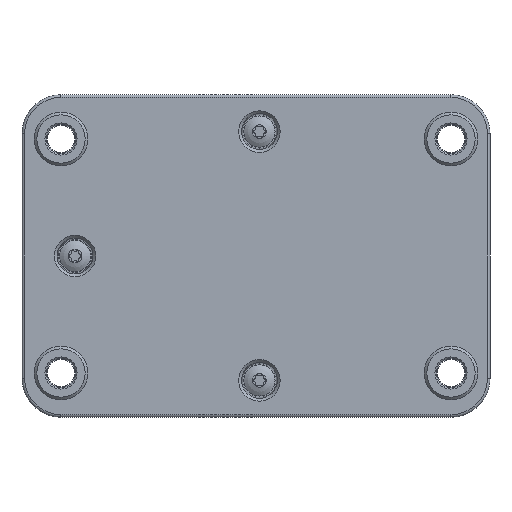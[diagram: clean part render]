
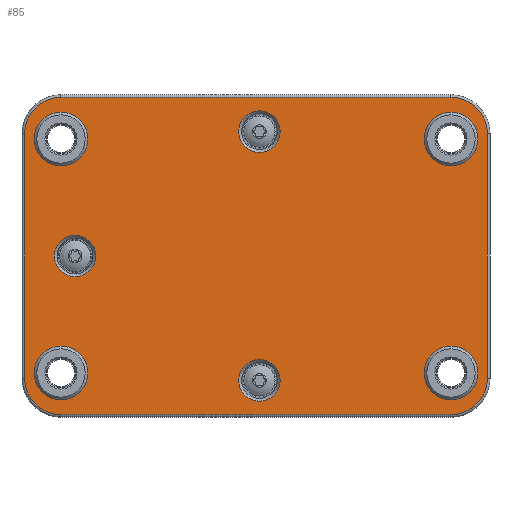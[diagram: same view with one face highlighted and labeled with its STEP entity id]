
A CAD part, front view. The second image highlights one B-rep face of the part: STEP entity #85.
In plain terms, the highlighted planar face has unit normal (0, -1, 0).
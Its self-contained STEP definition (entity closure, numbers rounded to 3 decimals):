
#85 = ADVANCED_FACE( '', ( #316, #317, #318, #319, #320, #321, #322, #323 ), #324, .F. );
#316 = FACE_OUTER_BOUND( '', #833, .T. );
#317 = FACE_BOUND( '', #834, .T. );
#318 = FACE_BOUND( '', #835, .T. );
#319 = FACE_BOUND( '', #836, .T. );
#320 = FACE_BOUND( '', #837, .T. );
#321 = FACE_BOUND( '', #838, .T. );
#322 = FACE_BOUND( '', #839, .T. );
#323 = FACE_BOUND( '', #840, .T. );
#324 = PLANE( '', #841 );
#833 = EDGE_LOOP( '', ( #1737, #1738, #1739, #1740, #1741, #1742, #1743, #1744 ) );
#834 = EDGE_LOOP( '', ( #1745 ) );
#835 = EDGE_LOOP( '', ( #1746 ) );
#836 = EDGE_LOOP( '', ( #1747 ) );
#837 = EDGE_LOOP( '', ( #1748 ) );
#838 = EDGE_LOOP( '', ( #1749 ) );
#839 = EDGE_LOOP( '', ( #1750 ) );
#840 = EDGE_LOOP( '', ( #1751 ) );
#841 = AXIS2_PLACEMENT_3D( '', #1752, #1753, #1754 );
#1737 = ORIENTED_EDGE( '', *, *, #3265, .F. );
#1738 = ORIENTED_EDGE( '', *, *, #3266, .T. );
#1739 = ORIENTED_EDGE( '', *, *, #3267, .F. );
#1740 = ORIENTED_EDGE( '', *, *, #3268, .T. );
#1741 = ORIENTED_EDGE( '', *, *, #3269, .T. );
#1742 = ORIENTED_EDGE( '', *, *, #3270, .F. );
#1743 = ORIENTED_EDGE( '', *, *, #3271, .T. );
#1744 = ORIENTED_EDGE( '', *, *, #3272, .F. );
#1745 = ORIENTED_EDGE( '', *, *, #3273, .F. );
#1746 = ORIENTED_EDGE( '', *, *, #3274, .F. );
#1747 = ORIENTED_EDGE( '', *, *, #3275, .F. );
#1748 = ORIENTED_EDGE( '', *, *, #3276, .F. );
#1749 = ORIENTED_EDGE( '', *, *, #3277, .F. );
#1750 = ORIENTED_EDGE( '', *, *, #3278, .F. );
#1751 = ORIENTED_EDGE( '', *, *, #3279, .F. );
#1752 = CARTESIAN_POINT( '', ( -38., 0., -24. ) );
#1753 = DIRECTION( '', ( 0., 1., 0. ) );
#1754 = DIRECTION( '', ( 0., 0., 1. ) );
#3265 = EDGE_CURVE( '', #3769, #3770, #3771, .T. );
#3266 = EDGE_CURVE( '', #3769, #3772, #3773, .T. );
#3267 = EDGE_CURVE( '', #3774, #3772, #3775, .T. );
#3268 = EDGE_CURVE( '', #3774, #3776, #3777, .T. );
#3269 = EDGE_CURVE( '', #3776, #3778, #3779, .T. );
#3270 = EDGE_CURVE( '', #3780, #3778, #3781, .T. );
#3271 = EDGE_CURVE( '', #3780, #3782, #3783, .T. );
#3272 = EDGE_CURVE( '', #3770, #3782, #3784, .T. );
#3273 = EDGE_CURVE( '', #3785, #3785, #3786, .F. );
#3274 = EDGE_CURVE( '', #3787, #3787, #3788, .F. );
#3275 = EDGE_CURVE( '', #3789, #3789, #3790, .F. );
#3276 = EDGE_CURVE( '', #3791, #3791, #3792, .T. );
#3277 = EDGE_CURVE( '', #3793, #3793, #3794, .T. );
#3278 = EDGE_CURVE( '', #3795, #3795, #3796, .T. );
#3279 = EDGE_CURVE( '', #3797, #3797, #3798, .T. );
#3769 = VERTEX_POINT( '', #4788 );
#3770 = VERTEX_POINT( '', #4789 );
#3771 = CIRCLE( '', #4790, 7. );
#3772 = VERTEX_POINT( '', #4791 );
#3773 = LINE( '', #4792, #4793 );
#3774 = VERTEX_POINT( '', #4794 );
#3775 = CIRCLE( '', #4795, 7. );
#3776 = VERTEX_POINT( '', #4796 );
#3777 = LINE( '', #4797, #4798 );
#3778 = VERTEX_POINT( '', #4799 );
#3779 = CIRCLE( '', #4800, 7. );
#3780 = VERTEX_POINT( '', #4801 );
#3781 = LINE( '', #4802, #4803 );
#3782 = VERTEX_POINT( '', #4804 );
#3783 = CIRCLE( '', #4805, 7. );
#3784 = LINE( '', #4806, #4807 );
#3785 = VERTEX_POINT( '', #4808 );
#3786 = CIRCLE( '', #4809, 3.986 );
#3787 = VERTEX_POINT( '', #4810 );
#3788 = CIRCLE( '', #4811, 3.986 );
#3789 = VERTEX_POINT( '', #4812 );
#3790 = CIRCLE( '', #4813, 3.986 );
#3791 = VERTEX_POINT( '', #4814 );
#3792 = CIRCLE( '', #4815, 5.15 );
#3793 = VERTEX_POINT( '', #4816 );
#3794 = CIRCLE( '', #4817, 5.15 );
#3795 = VERTEX_POINT( '', #4818 );
#3796 = CIRCLE( '', #4819, 5.15 );
#3797 = VERTEX_POINT( '', #4820 );
#3798 = CIRCLE( '', #4821, 5.15 );
#4788 = CARTESIAN_POINT( '', ( 37.5, 0., 30.5 ) );
#4789 = CARTESIAN_POINT( '', ( 44.5, 0., 23.5 ) );
#4790 = AXIS2_PLACEMENT_3D( '', #6134, #6135, #6136 );
#4791 = CARTESIAN_POINT( '', ( -37.5, 0., 30.5 ) );
#4792 = CARTESIAN_POINT( '', ( 37.5, 0., 30.5 ) );
#4793 = VECTOR( '', #6137, 1000. );
#4794 = CARTESIAN_POINT( '', ( -44.5, 0., 23.5 ) );
#4795 = AXIS2_PLACEMENT_3D( '', #6138, #6139, #6140 );
#4796 = CARTESIAN_POINT( '', ( -44.5, 0., -23.5 ) );
#4797 = CARTESIAN_POINT( '', ( -44.5, 0., 37.5 ) );
#4798 = VECTOR( '', #6141, 1000. );
#4799 = CARTESIAN_POINT( '', ( -37.5, 0., -30.5 ) );
#4800 = AXIS2_PLACEMENT_3D( '', #6142, #6143, #6144 );
#4801 = CARTESIAN_POINT( '', ( 37.5, 0., -30.5 ) );
#4802 = CARTESIAN_POINT( '', ( 37.5, 0., -30.5 ) );
#4803 = VECTOR( '', #6145, 1000. );
#4804 = CARTESIAN_POINT( '', ( 44.5, 0., -23.5 ) );
#4805 = AXIS2_PLACEMENT_3D( '', #6146, #6147, #6148 );
#4806 = CARTESIAN_POINT( '', ( 44.5, 0., 37.5 ) );
#4807 = VECTOR( '', #6149, 1000. );
#4808 = CARTESIAN_POINT( '', ( 0.665, 0., 27.911 ) );
#4809 = AXIS2_PLACEMENT_3D( '', #6150, #6151, #6152 );
#4810 = CARTESIAN_POINT( '', ( 0.665, 0., -19.939 ) );
#4811 = AXIS2_PLACEMENT_3D( '', #6153, #6154, #6155 );
#4812 = CARTESIAN_POINT( '', ( -34.8, 0., 3.986 ) );
#4813 = AXIS2_PLACEMENT_3D( '', #6156, #6157, #6158 );
#4814 = CARTESIAN_POINT( '', ( -37.5, 0., -27.65 ) );
#4815 = AXIS2_PLACEMENT_3D( '', #6159, #6160, #6161 );
#4816 = CARTESIAN_POINT( '', ( 37.5, 0., -27.65 ) );
#4817 = AXIS2_PLACEMENT_3D( '', #6162, #6163, #6164 );
#4818 = CARTESIAN_POINT( '', ( -37.5, 0., 17.35 ) );
#4819 = AXIS2_PLACEMENT_3D( '', #6165, #6166, #6167 );
#4820 = CARTESIAN_POINT( '', ( 37.5, 0., 17.35 ) );
#4821 = AXIS2_PLACEMENT_3D( '', #6168, #6169, #6170 );
#6134 = CARTESIAN_POINT( '', ( 37.5, 0., 23.5 ) );
#6135 = DIRECTION( '', ( 0., 1., 0. ) );
#6136 = DIRECTION( '', ( 0., 0., 1. ) );
#6137 = DIRECTION( '', ( -1., 0., 0. ) );
#6138 = CARTESIAN_POINT( '', ( -37.5, 0., 23.5 ) );
#6139 = DIRECTION( '', ( 0., 1., 0. ) );
#6140 = DIRECTION( '', ( 0., 0., 1. ) );
#6141 = DIRECTION( '', ( 0., 0., -1. ) );
#6142 = CARTESIAN_POINT( '', ( -37.5, 0., -23.5 ) );
#6143 = DIRECTION( '', ( 0., -1., 0. ) );
#6144 = DIRECTION( '', ( 0., 0., -1. ) );
#6145 = DIRECTION( '', ( -1., 0., 0. ) );
#6146 = CARTESIAN_POINT( '', ( 37.5, 0., -23.5 ) );
#6147 = DIRECTION( '', ( 0., -1., 0. ) );
#6148 = DIRECTION( '', ( 0., 0., -1. ) );
#6149 = DIRECTION( '', ( 0., 0., -1. ) );
#6150 = CARTESIAN_POINT( '', ( 0.665, 0., 23.925 ) );
#6151 = DIRECTION( '', ( 0., 1., 0. ) );
#6152 = DIRECTION( '', ( 0., 0., 1. ) );
#6153 = CARTESIAN_POINT( '', ( 0.665, 0., -23.925 ) );
#6154 = DIRECTION( '', ( 0., 1., 0. ) );
#6155 = DIRECTION( '', ( 0., 0., 1. ) );
#6156 = CARTESIAN_POINT( '', ( -34.8, 0., 0. ) );
#6157 = DIRECTION( '', ( 0., 1., 0. ) );
#6158 = DIRECTION( '', ( 0., 0., 1. ) );
#6159 = CARTESIAN_POINT( '', ( -37.5, 0., -22.5 ) );
#6160 = DIRECTION( '', ( 0., -1., 0. ) );
#6161 = DIRECTION( '', ( 0., 0., -1. ) );
#6162 = CARTESIAN_POINT( '', ( 37.5, 0., -22.5 ) );
#6163 = DIRECTION( '', ( 0., -1., 0. ) );
#6164 = DIRECTION( '', ( 0., 0., -1. ) );
#6165 = CARTESIAN_POINT( '', ( -37.5, 0., 22.5 ) );
#6166 = DIRECTION( '', ( 0., -1., 0. ) );
#6167 = DIRECTION( '', ( 0., 0., -1. ) );
#6168 = CARTESIAN_POINT( '', ( 37.5, 0., 22.5 ) );
#6169 = DIRECTION( '', ( 0., -1., 0. ) );
#6170 = DIRECTION( '', ( 0., 0., -1. ) );
